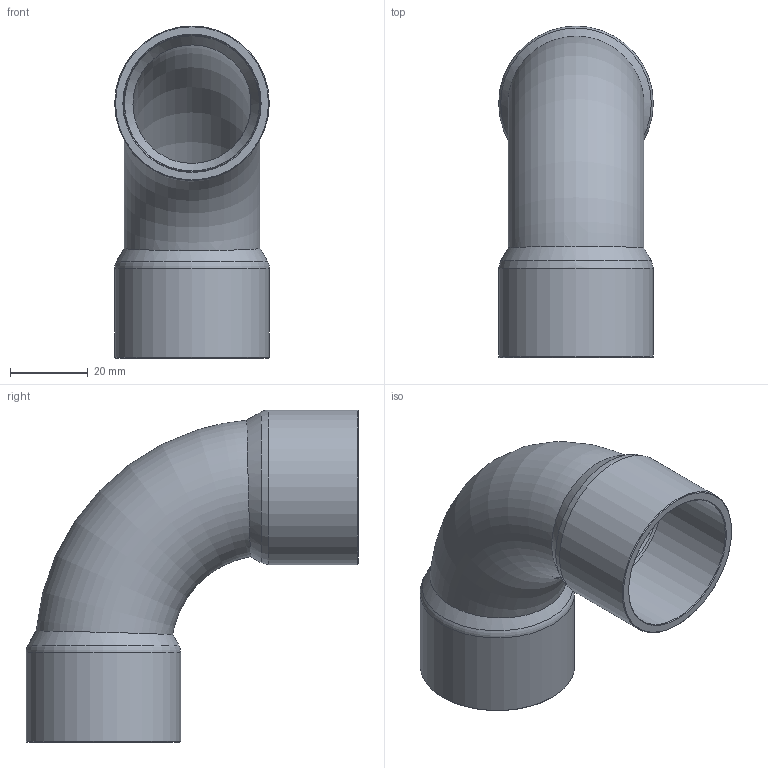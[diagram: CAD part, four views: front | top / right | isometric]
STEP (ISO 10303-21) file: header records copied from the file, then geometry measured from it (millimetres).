
FILE_DESCRIPTION((''),'2;1');
FILE_NAME('G:\SANHA-Ternat\Technik\Management\Bouwmaten + markeringen\z-maattekeningen 3D\29000s\29002A138_3d.stp','2017-07-26T08:59:07',('vdvijverd'),(''),'Autodesk Inventor 2009','Autodesk Inventor 2009','');
FILE_SCHEMA(('AUTOMOTIVE_DESIGN { 1 0 10303 214 1 1 1 1 }'));
Length unit declared in the file: millimetre
Products named in the file (1): 29002A138_3d
Bounding box: 39.7 x 85.25 x 85.25 mm (x, y, z)
Volume: 28662.6 mm3; surface area: 25416.2 mm2
Topology: 1 solids, 1 shells, 20 faces, 38 edges, 20 vertices
Faces by surface type: bspline 8, cone 6, torus 3, cylinder 2, plane 1
Full cylindrical faces by diameter (mm): 35.105 x1, 39.705 x1
Entity records: 738 total; most frequent: CARTESIAN_POINT 408, DIRECTION 58, ORIENTED_EDGE 40, EDGE_LOOP 40, AXIS2_PLACEMENT_3D 29, VERTEX_POINT 20, EDGE_CURVE 20, FACE_OUTER_BOUND 20
